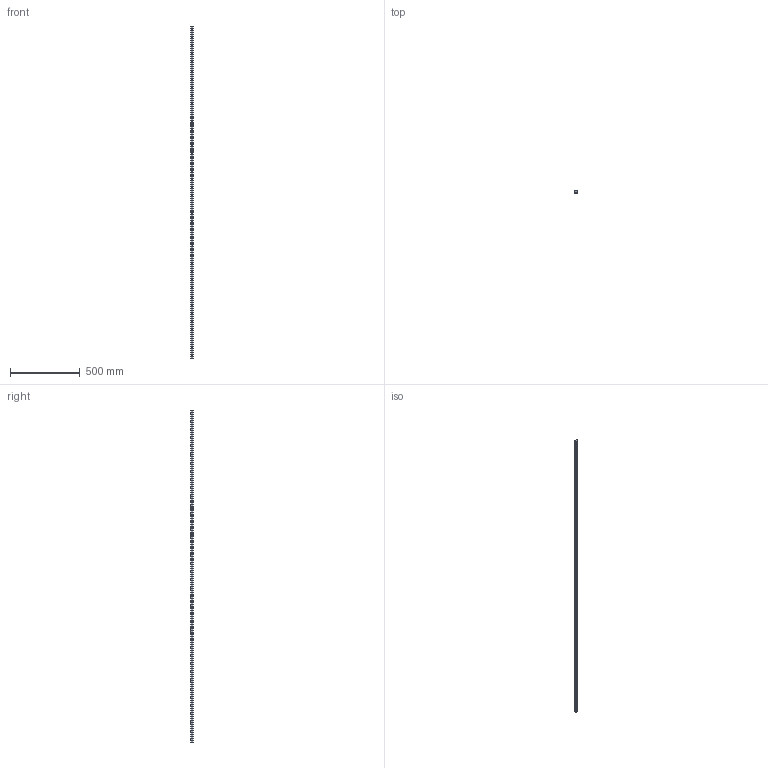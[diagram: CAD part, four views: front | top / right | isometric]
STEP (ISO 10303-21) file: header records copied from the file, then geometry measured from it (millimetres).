
FILE_DESCRIPTION (( 'STEP AP203' ), '1' );
FILE_NAME ('L1016.BL20-2380.step', '2019-06-12T11:52:46', ( '' ), ( '' ), 'SwSTEP 2.0', 'SolidWorks 2017', '' );
FILE_SCHEMA (( 'CONFIG_CONTROL_DESIGN' ));
Length unit declared in the file: millimetre
Products named in the file (1): L1016.BL20-2380
Bounding box: 20 x 16.3 x 2380 mm (x, y, z)
Volume: 661523.1 mm3; surface area: 191569.5 mm2
Topology: 1 solids, 1 shells, 226 faces, 552 edges, 368 vertices
Faces by surface type: cylinder 164, plane 62
Entity records: 7061 total; most frequent: DIRECTION 1334, CARTESIAN_POINT 1147, ORIENTED_EDGE 1104, AXIS2_PLACEMENT_3D 555, EDGE_CURVE 552, VERTEX_POINT 368, EDGE_LOOP 346, CIRCLE 328
